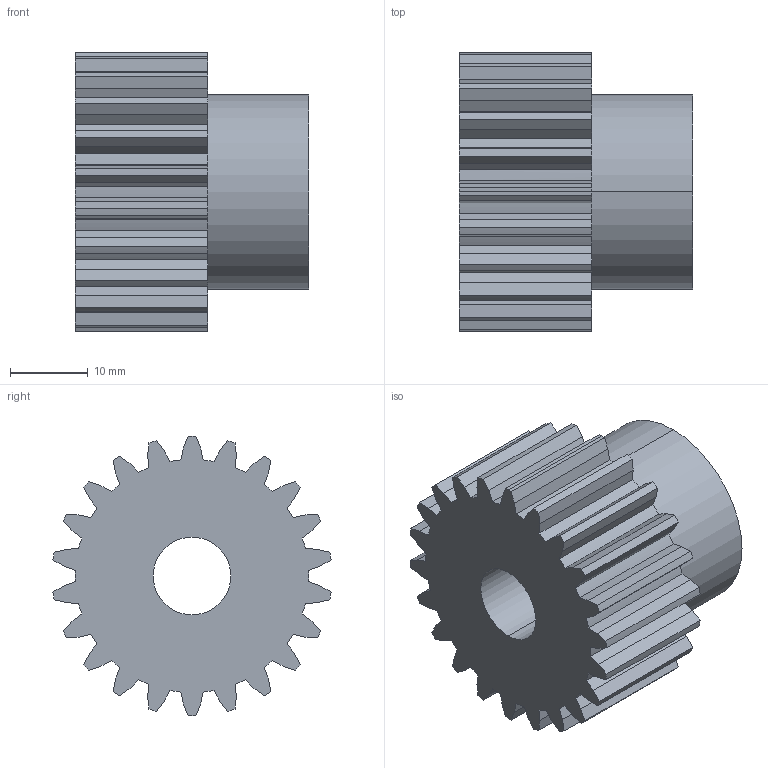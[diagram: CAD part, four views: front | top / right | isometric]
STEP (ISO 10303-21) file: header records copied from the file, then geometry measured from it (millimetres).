
FILE_DESCRIPTION (( 'STEP AP203' ), '1' );
FILE_NAME ('PM 27022.STEP', '2013-09-24T10:02:27', ( '' ), ( '' ), 'SwSTEP 2.0', 'SolidWorks 2010', '' );
FILE_SCHEMA (( 'CONFIG_CONTROL_DESIGN' ));
Length unit declared in the file: millimetre
Products named in the file (1): PM 27022
Bounding box: 30 x 35.76 x 36 mm (x, y, z)
Volume: 18363.3 mm3; surface area: 6802.1 mm2
Topology: 1 solids, 1 shells, 140 faces, 411 edges, 274 vertices
Faces by surface type: plane 91, cylinder 49
Entity records: 4736 total; most frequent: CARTESIAN_POINT 835, ORIENTED_EDGE 822, DIRECTION 787, EDGE_CURVE 411, LINE 311, VECTOR 311, VERTEX_POINT 274, AXIS2_PLACEMENT_3D 238
